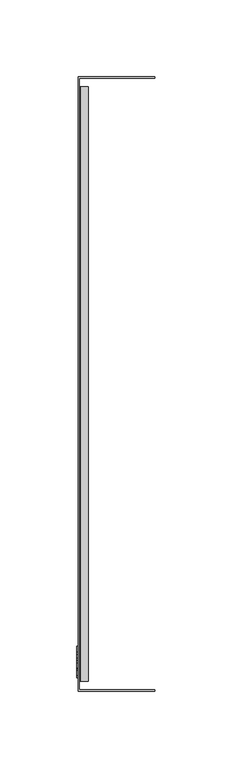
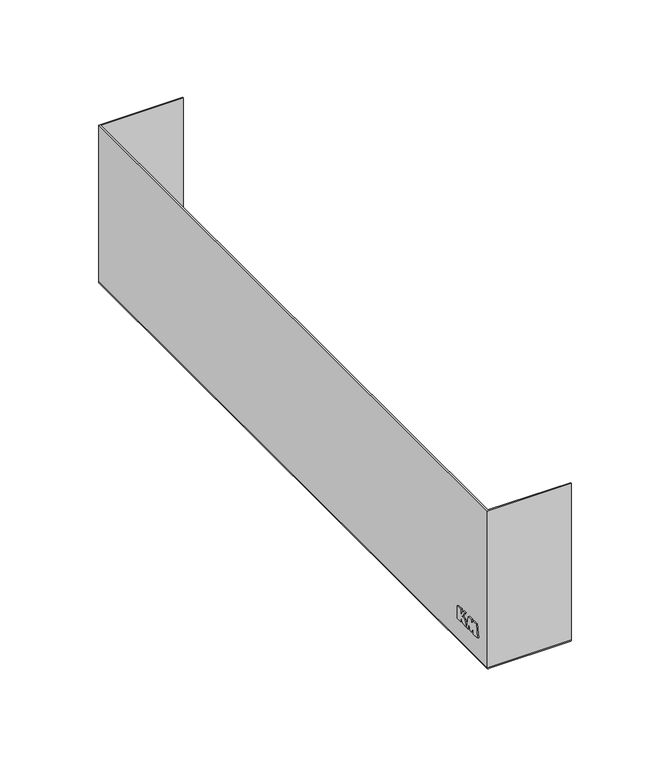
"""IFC4 building model written with IfcOpenShell, lengths in millimetres: cable carrier fitting geometry, КМ Профиль Заглушка ZU : Заглушка ZU."""

from ifc_helpers import new_model, si_unit, frame, origin, place, context, project, spatial, polyline, circle_curve, ellipse_curve, outline, extrude, source, transform, mapped, element, save
from ifc_brep_helpers import plane_surface, cylinder_surface, revolved_surface, advanced_brep


def cable_carrier_fitting_62d317b6(model_context):
    return source(origin(), model_context, "Body", "SolidModel", [
        extrude(outline(polyline([(-170.7611219, -26.986157), (-170.7611219, -34.737421), (-174.3369488, -34.737421), (-174.3369488, -31.5720802), (-176.0411533, -34.737421), (-179.9395647, -34.737421), (-178.0722556, -31.194034), (-175.8305045, -30.5086619), (-178.296989, -26.986157), (-176.1710243, -26.986157), (-174.2683808, -30.564509), (-174.2683808, -26.986157), (-170.7611219, -26.986157)])), frame((-0.8, 0.0, 0.0), z_axis=(1.0, 0.0, 0.0), x_axis=(0.0, 1.0, 0.0)), (0.0, 0.0, 1.0), 0.8),
        extrude(outline(polyline([(-182.0037241, -34.737421), (-182.3873988, -30.0696135), (-183.7954176, -34.7434681), (-185.2699283, -34.7434681), (-186.7499968, -30.0541919), (-187.2274895, -34.7429915), (-191.1299301, -34.7429915), (-189.9384326, -26.9623682), (-186.7444777, -26.9623682), (-185.7231703, -30.0390232), (-184.9566696, -26.9647569), (-181.9259411, -26.9647569), (-180.1056605, -34.737421), (-182.0037241, -34.737421)])), frame((-0.8, 0.0, 0.0), z_axis=(1.0, 0.0, 0.0), x_axis=(0.0, 1.0, 0.0)), (0.0, 0.0, 1.0), 0.8),
        advanced_brep(
        [(50.0, -200.0, 50.0), (50.0, -200.0, -48.2), (50.0, -199.2, -49.696663), (50.0, -199.2, 50.0), (0.0, -200.0, 50.0), (0.0, -200.0, -48.2), (0.8, -199.2, -49.696663), (6.5, 193.5, -50.0), (6.5, -193.5, -50.0), (1.8, -193.5, -50.0), (1.8, 193.5, -50.0), (6.5, -193.5, -49.2), (6.5, 193.5, -49.2), (1.8, 193.5, -49.2), (1.8, -193.5, -49.2), (0.8, -199.2, 50.0), (0.8, 199.2, 50.0), (50.0, 199.2, 50.0), (50.0, 200.0, 50.0), (0.0, 200.0, 50.0), (0.0, 200.0, -48.2), (0.8, 199.2, -49.696663), (0.8, 193.5, -49.696663), (0.8, -193.5, -49.696663), (0.8, 193.5, -48.2), (0.8, -193.5, -48.2), (50.0, 199.2, -49.696663), (50.0, 200.0, -48.2)],
        [
            (0, 1),
            (1, 2, circle_curve(frame((50.0, -198.2, -48.2), z_axis=(1.0, 0.0, 0.0), x_axis=(0.0, -1.0, 0.0)), 1.8)),
            (2, 3),
            (3, 0),
            (0, 4),
            (4, 5),
            (5, 1),
            (5, 6, ellipse_curve(frame((1.8, -198.2, -48.2), z_axis=(0.7071067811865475, -0.7071067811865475, 0.0), x_axis=(0.7071067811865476, 0.7071067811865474, 0.0)), 2.5455844, 1.8)),
            (6, 2),
            (7, 8),
            (8, 9),
            (9, 10),
            (10, 7),
            (11, 12),
            (12, 13),
            (13, 14),
            (14, 11),
            (6, 15),
            (15, 3),
            (15, 16),
            (16, 17),
            (17, 18),
            (18, 19),
            (19, 4),
            (19, 20),
            (20, 5),
            (20, 21, ellipse_curve(frame((1.8, 198.2, -48.2), z_axis=(-0.7071067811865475, -0.7071067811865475, 0.0), x_axis=(0.7071067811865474, -0.7071067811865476, 0.0)), 2.5455844, 1.8)),
            (21, 22),
            (22, 10, circle_curve(frame((1.8, 193.5, -48.2), z_axis=(0.0, -1.0, 0.0), x_axis=(-1.0, 0.0, 0.0)), 1.8)),
            (9, 23, circle_curve(frame((1.8, -193.5, -48.2), z_axis=(0.0, 1.0, 0.0), x_axis=(-1.0, 0.0, 0.0)), 1.8)),
            (23, 6),
            (7, 12),
            (11, 8),
            (13, 24, circle_curve(frame((1.8, 193.5, -48.2), z_axis=(0.0, 1.0, 0.0), x_axis=(-1.0, 0.0, 0.0)), 1.0)),
            (24, 25),
            (25, 14, circle_curve(frame((1.8, -193.5, -48.2), z_axis=(0.0, -1.0, 0.0), x_axis=(-1.0, 0.0, 0.0)), 1.0)),
            (23, 25),
            (24, 22),
            (21, 16),
            (17, 26),
            (26, 27, circle_curve(frame((50.0, 198.2, -48.2), z_axis=(1.0, 0.0, 0.0), x_axis=(0.0, 1.0, 0.0)), 1.8)),
            (27, 18),
            (27, 20),
            (26, 21),
        ],
        [
            plane_surface(frame((50.0, -200.0, 0.0), z_axis=(1.0, 0.0, 0.0), x_axis=(0.0, 0.0, 1.0))),
            plane_surface(frame((50.0, -200.0, 50.0), z_axis=(0.0, -1.0, 0.0), x_axis=(-1.0, 0.0, 0.0))),
            cylinder_surface(frame((50.0, -198.2, -48.2), z_axis=(1.0, 0.0, 0.0), x_axis=(0.0, -1.0, 0.0)), 1.8),
            plane_surface(frame((50.0, -198.2, -50.0), z_axis=(0.0, 0.0, -1.0), x_axis=(-1.0, 0.0, 0.0))),
            plane_surface(frame((50.0, -193.5, -49.2), z_axis=(0.0, 0.0, 1.0), x_axis=(-1.0, 0.0, 0.0))),
            plane_surface(frame((50.0, -199.2, -48.2), z_axis=(0.0, 1.0, 0.0), x_axis=(-1.0, 0.0, 0.0))),
            plane_surface(frame((50.0, -199.2, 50.0), z_axis=(0.0, 0.0, 1.0), x_axis=(-1.0, 0.0, 0.0))),
            plane_surface(frame((0.0, -200.0, 50.0), z_axis=(-1.0, 0.0, 0.0), x_axis=(0.0, 1.0, 0.0))),
            cylinder_surface(frame((1.8, -200.0, -48.2), z_axis=(0.0, -1.0, 0.0), x_axis=(-1.0, 0.0, 0.0)), 1.8),
            plane_surface(frame((6.5, -193.5, -50.0), z_axis=(1.0, 0.0, 0.0), x_axis=(0.0, 1.0, 0.0))),
            revolved_surface(polyline([(0.8, 193.5, -48.2), (0.8, -193.5, -48.2)]), (1.8, -200.0, -48.2), (0.0, 1.0, 0.0)),
            plane_surface(frame((0.8, -199.2, -48.2), z_axis=(1.0, 0.0, 0.0), x_axis=(0.0, 1.0, 0.0))),
            plane_surface(frame((50.0, 200.0, 0.0), z_axis=(1.0, 0.0, 0.0), x_axis=(0.0, 0.0, 1.0))),
            plane_surface(frame((0.0, 200.0, 50.0), z_axis=(0.0, 1.0, 0.0), x_axis=(1.0, 0.0, 0.0))),
            cylinder_surface(frame((0.0, 198.2, -48.2), z_axis=(-1.0, 0.0, 0.0), x_axis=(0.0, 1.0, 0.0)), 1.8),
            plane_surface(frame((0.8, 199.2, -48.2), z_axis=(0.0, -1.0, 0.0), x_axis=(1.0, 0.0, 0.0))),
            plane_surface(frame((0.8, 193.5, 50.0), z_axis=(0.0, 1.0, 0.0), x_axis=(0.0, 0.0, -1.0))),
            plane_surface(frame((50.0, -193.5, 50.0), z_axis=(0.0, -1.0, 0.0), x_axis=(0.0, 0.0, -1.0))),
        ],
        [
            (0, [[1, 2, 3, 4]]),
            (1, [[-1, 5, 6, 7]]),
            (2, [[-7, 8, 9, -2]]),
            (3, [[10, 11, 12, 13]]),
            (4, [[14, 15, 16, 17]]),
            (5, [[-9, 18, 19, -3]]),
            (6, [[-4, -19, 20, 21, 22, 23, 24, -5]]),
            (7, [[-6, -24, 25, 26]]),
            (8, [[-26, 27, 28, 29, -12, 30, 31, -8]]),
            (9, [[-10, 32, -14, 33]]),
            (10, [[-16, 34, 35, 36]]),
            (11, [[-18, -31, 37, -35, 38, -28, 39, -20]]),
            (12, [[-22, 40, 41, 42]]),
            (13, [[-23, -42, 43, -25]]),
            (14, [[-43, -41, 44, -27]]),
            (15, [[-21, -39, -44, -40]]),
            (16, [[-38, -34, -15, -32, -13, -29]]),
            (17, [[-37, -30, -11, -33, -17, -36]]),
        ],
    ),
    ])


if __name__ == "__main__":
    model = new_model("IFC4")
    model_context = context("Model", 3, world=origin())
    ifc_project = project(units=[si_unit("LENGTHUNIT", "METRE", prefix="MILLI")], contexts=[model_context])
    site = spatial("IfcSite", under=ifc_project)
    building = spatial("IfcBuilding", under=site)
    placement = place(None, origin())
    cable_carrier_fitting_shape = cable_carrier_fitting_62d317b6(model_context)
    element("IfcCableCarrierFitting", 1, ObjectType="КМ Профиль Заглушка ZU : Заглушка ZU", at=placement, inside=building, context=model_context, shape_type="MappedRepresentation", body=[
        mapped(cable_carrier_fitting_shape, transform((0.0, 0.0, 0.0), x_axis=(1.0, 0.0, 0.0), y_axis=(0.0, 1.0, 0.0), z_axis=(0.0, 0.0, 1.0))),
    ])
    save(model, "model.ifc")
